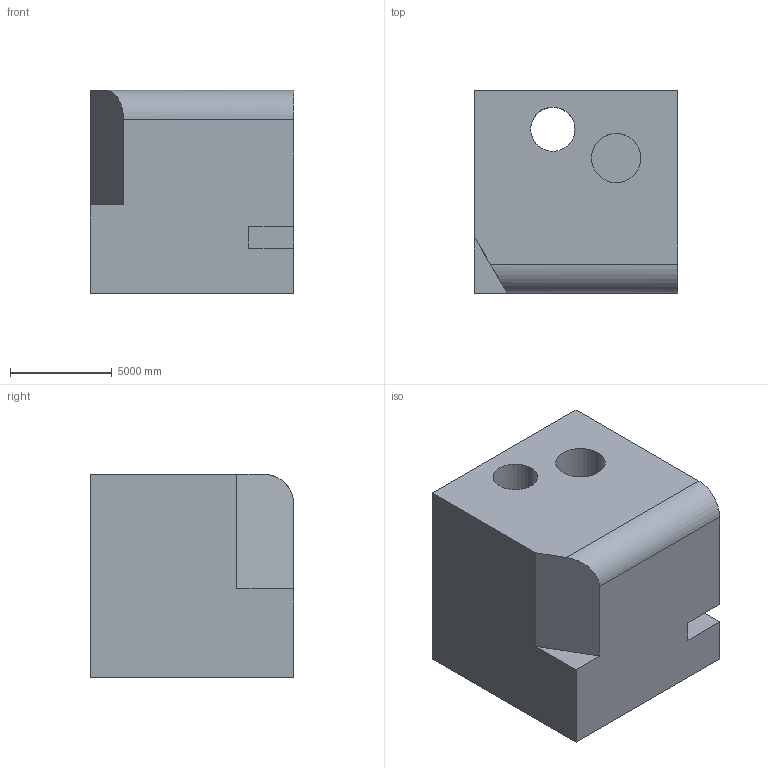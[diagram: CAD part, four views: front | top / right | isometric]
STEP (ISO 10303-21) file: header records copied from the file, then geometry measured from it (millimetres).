
FILE_DESCRIPTION (( 'STEP AP203' ), '1' );
FILE_NAME ('1537.STEP', '2022-08-18T15:09:12', ( 'user' ), ( '' ), 'SwSTEP 2.0', 'SolidWorks 2021', '' );
FILE_SCHEMA (( 'CONFIG_CONTROL_DESIGN' ));
Length unit declared in the file: centimetre
Products named in the file (1): 1537
Bounding box: 10000 x 10000 x 10000 mm (x, y, z)
Volume: 887327056227.8 mm3; surface area: 695637071.8 mm2
Topology: 1 solids, 1 shells, 20 faces, 51 edges, 34 vertices
Faces by surface type: plane 14, cylinder 6
Entity records: 687 total; most frequent: CARTESIAN_POINT 109, DIRECTION 103, ORIENTED_EDGE 102, EDGE_CURVE 51, LINE 39, VECTOR 39, VERTEX_POINT 34, AXIS2_PLACEMENT_3D 32
